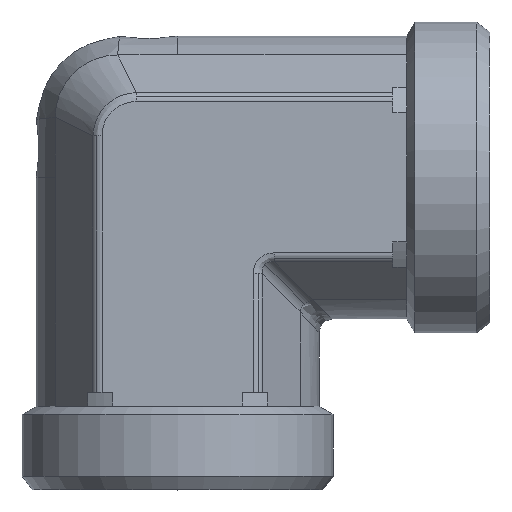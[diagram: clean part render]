
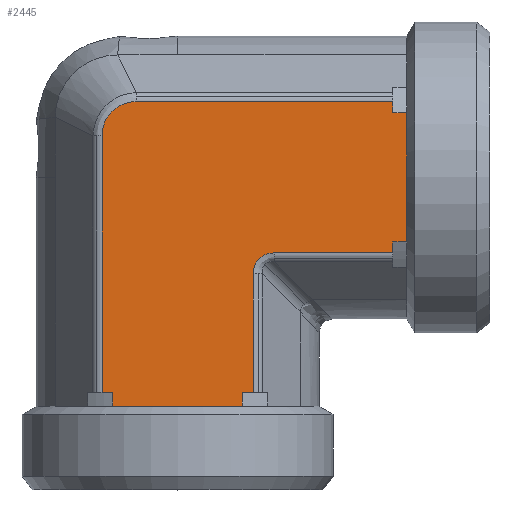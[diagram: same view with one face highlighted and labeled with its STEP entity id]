
A CAD part, top view. The second image highlights one B-rep face of the part: STEP entity #2445.
In plain terms, the highlighted planar face has unit normal (0, 0, 1) as drawn and (0, -1, 0) by its records, which use the part's own axes.
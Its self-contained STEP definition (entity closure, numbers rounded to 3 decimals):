
#361=CARTESIAN_POINT('',(9.429,-20.375,10.897));
#362=VERTEX_POINT('',#361);
#370=CARTESIAN_POINT('',(26.5,-20.375,10.897));
#371=VERTEX_POINT('',#370);
#372=CARTESIAN_POINT('',(9.429,-20.375,10.897));
#373=DIRECTION('',(1.0,0.0,0.0));
#374=VECTOR('',#373,17.071);
#375=LINE('',#372,#374);
#376=EDGE_CURVE('',#362,#371,#375,.T.);
#485=CARTESIAN_POINT('',(-15.397,-20.375,-5.976));
#486=VERTEX_POINT('',#485);
#494=CARTESIAN_POINT('',(-15.397,-20.375,31.));
#495=VERTEX_POINT('',#494);
#496=CARTESIAN_POINT('',(-15.397,-20.375,-5.976));
#497=DIRECTION('',(0.0,0.0,1.0));
#498=VECTOR('',#497,36.976);
#499=LINE('',#496,#498);
#500=EDGE_CURVE('',#486,#495,#499,.T.);
#692=CARTESIAN_POINT('',(28.5,-20.375,0.));
#693=VERTEX_POINT('',#692);
#1891=CARTESIAN_POINT('',(6.397,-20.375,31.));
#1892=VERTEX_POINT('',#1891);
#1893=CARTESIAN_POINT('',(4.831,-20.375,31.));
#1894=VERTEX_POINT('',#1893);
#1895=CARTESIAN_POINT('',(6.397,-20.375,31.));
#1896=DIRECTION('',(-1.0,0.0,0.0));
#1897=VECTOR('',#1896,1.566);
#1898=LINE('',#1895,#1897);
#1899=EDGE_CURVE('',#1892,#1894,#1898,.T.);
#1950=CARTESIAN_POINT('',(-13.831,-20.375,31.));
#1951=VERTEX_POINT('',#1950);
#1952=CARTESIAN_POINT('',(-13.831,-20.375,31.));
#1953=DIRECTION('',(-1.0,0.0,0.0));
#1954=VECTOR('',#1953,1.566);
#1955=LINE('',#1952,#1954);
#1956=EDGE_CURVE('',#1951,#495,#1955,.T.);
#2014=CARTESIAN_POINT('',(-13.831,-20.375,33.0));
#2015=VERTEX_POINT('',#2014);
#2016=CARTESIAN_POINT('',(-13.831,-20.375,33.0));
#2017=DIRECTION('',(0.0,0.0,-1.0));
#2018=VECTOR('',#2017,2.);
#2019=LINE('',#2016,#2018);
#2020=EDGE_CURVE('',#2015,#1951,#2019,.T.);
#2037=CARTESIAN_POINT('',(4.831,-20.375,33.0));
#2038=VERTEX_POINT('',#2037);
#2039=CARTESIAN_POINT('',(4.831,-20.375,31.));
#2040=DIRECTION('',(0.0,0.0,1.0));
#2041=VECTOR('',#2040,2.);
#2042=LINE('',#2039,#2041);
#2043=EDGE_CURVE('',#1894,#2038,#2042,.T.);
#2319=CARTESIAN_POINT('',(-4.5,-20.375,33.0));
#2320=VERTEX_POINT('',#2319);
#2321=CARTESIAN_POINT('',(-4.5,-20.375,33.0));
#2322=DIRECTION('',(-1.0,0.0,0.0));
#2323=VECTOR('',#2322,9.331);
#2324=LINE('',#2321,#2323);
#2325=EDGE_CURVE('',#2320,#2015,#2324,.T.);
#2343=CARTESIAN_POINT('',(-4.5,-20.375,-3.175));
#2344=DIRECTION('',(0.0,-1.0,0.0));
#2345=DIRECTION('',(0.0,0.0,-1.0));
#2346=AXIS2_PLACEMENT_3D('',#2343,#2344,#2345);
#2347=PLANE('',#2346);
#2348=ORIENTED_EDGE('',*,*,#2020,.T.);
#2349=ORIENTED_EDGE('',*,*,#1956,.T.);
#2350=ORIENTED_EDGE('',*,*,#500,.F.);
#2351=CARTESIAN_POINT('',(-10.476,-20.375,-10.897));
#2352=VERTEX_POINT('',#2351);
#2353=CARTESIAN_POINT('',(-15.397,-20.375,-5.976));
#2354=CARTESIAN_POINT('',(-15.397,-20.375,-6.296));
#2355=CARTESIAN_POINT('',(-15.365,-20.375,-6.619));
#2356=CARTESIAN_POINT('',(-15.2,-20.375,-7.443));
#2357=CARTESIAN_POINT('',(-15.019,-20.375,-7.929));
#2358=CARTESIAN_POINT('',(-14.359,-20.375,-9.1));
#2359=CARTESIAN_POINT('',(-13.773,-20.375,-9.713));
#2360=CARTESIAN_POINT('',(-12.293,-20.375,-10.637));
#2361=CARTESIAN_POINT('',(-11.385,-20.375,-10.897));
#2362=CARTESIAN_POINT('',(-10.476,-20.375,-10.897));
#2363=B_SPLINE_CURVE_WITH_KNOTS('',3,(#2353,#2354,#2355,#2356,#2357,#2358,#2359,#2360,#2361,#2362),.UNSPECIFIED.,.F.,.U.,(4,2,2,2,4),(-7.686,-6.725,-5.188,-2.729,0.0),.UNSPECIFIED.);
#2364=EDGE_CURVE('',#2352,#486,#2363,.F.);
#2365=ORIENTED_EDGE('',*,*,#2364,.F.);
#2366=CARTESIAN_POINT('',(26.5,-20.375,-10.897));
#2367=VERTEX_POINT('',#2366);
#2368=CARTESIAN_POINT('',(26.5,-20.375,-10.897));
#2369=DIRECTION('',(-1.0,0.0,0.0));
#2370=VECTOR('',#2369,36.976);
#2371=LINE('',#2368,#2370);
#2372=EDGE_CURVE('',#2367,#2352,#2371,.T.);
#2373=ORIENTED_EDGE('',*,*,#2372,.F.);
#2374=CARTESIAN_POINT('',(26.5,-20.375,-9.331));
#2375=VERTEX_POINT('',#2374);
#2376=CARTESIAN_POINT('',(26.5,-20.375,-10.897));
#2377=DIRECTION('',(0.0,0.0,1.0));
#2378=VECTOR('',#2377,1.566);
#2379=LINE('',#2376,#2378);
#2380=EDGE_CURVE('',#2367,#2375,#2379,.T.);
#2381=ORIENTED_EDGE('',*,*,#2380,.T.);
#2382=CARTESIAN_POINT('',(28.5,-20.375,-9.331));
#2383=VERTEX_POINT('',#2382);
#2384=CARTESIAN_POINT('',(26.5,-20.375,-9.331));
#2385=DIRECTION('',(1.0,0.0,0.0));
#2386=VECTOR('',#2385,2.0);
#2387=LINE('',#2384,#2386);
#2388=EDGE_CURVE('',#2375,#2383,#2387,.T.);
#2389=ORIENTED_EDGE('',*,*,#2388,.T.);
#2390=CARTESIAN_POINT('',(28.5,-20.375,-9.331));
#2391=DIRECTION('',(0.0,0.0,1.0));
#2392=VECTOR('',#2391,9.331);
#2393=LINE('',#2390,#2392);
#2394=EDGE_CURVE('',#2383,#693,#2393,.T.);
#2395=ORIENTED_EDGE('',*,*,#2394,.T.);
#2396=CARTESIAN_POINT('',(28.5,-20.375,9.331));
#2397=VERTEX_POINT('',#2396);
#2398=CARTESIAN_POINT('',(28.5,-20.375,0.));
#2399=DIRECTION('',(0.0,0.0,1.0));
#2400=VECTOR('',#2399,9.331);
#2401=LINE('',#2398,#2400);
#2402=EDGE_CURVE('',#693,#2397,#2401,.T.);
#2403=ORIENTED_EDGE('',*,*,#2402,.T.);
#2404=CARTESIAN_POINT('',(26.5,-20.375,9.331));
#2405=VERTEX_POINT('',#2404);
#2406=CARTESIAN_POINT('',(28.5,-20.375,9.331));
#2407=DIRECTION('',(-1.0,0.0,0.0));
#2408=VECTOR('',#2407,2.);
#2409=LINE('',#2406,#2408);
#2410=EDGE_CURVE('',#2397,#2405,#2409,.T.);
#2411=ORIENTED_EDGE('',*,*,#2410,.T.);
#2412=CARTESIAN_POINT('',(26.5,-20.375,9.331));
#2413=DIRECTION('',(0.0,0.0,1.0));
#2414=VECTOR('',#2413,1.566);
#2415=LINE('',#2412,#2414);
#2416=EDGE_CURVE('',#2405,#371,#2415,.T.);
#2417=ORIENTED_EDGE('',*,*,#2416,.T.);
#2418=ORIENTED_EDGE('',*,*,#376,.F.);
#2419=CARTESIAN_POINT('',(6.397,-20.375,13.929));
#2420=VERTEX_POINT('',#2419);
#2421=CARTESIAN_POINT('',(10.439,-20.375,14.939));
#2422=DIRECTION('',(0.,-1.,0.));
#2423=DIRECTION('',(-0.707,0.,-0.707));
#2424=AXIS2_PLACEMENT_3D('',#2421,#2422,#2423);
#2425=ELLIPSE('',#2424,4.518,3.5);
#2426=EDGE_CURVE('',#2420,#362,#2425,.T.);
#2427=ORIENTED_EDGE('',*,*,#2426,.F.);
#2428=CARTESIAN_POINT('',(6.397,-20.375,31.));
#2429=DIRECTION('',(0.0,0.0,-1.0));
#2430=VECTOR('',#2429,17.071);
#2431=LINE('',#2428,#2430);
#2432=EDGE_CURVE('',#1892,#2420,#2431,.T.);
#2433=ORIENTED_EDGE('',*,*,#2432,.F.);
#2434=ORIENTED_EDGE('',*,*,#1899,.T.);
#2435=ORIENTED_EDGE('',*,*,#2043,.T.);
#2436=CARTESIAN_POINT('',(4.831,-20.375,33.0));
#2437=DIRECTION('',(-1.0,0.0,0.0));
#2438=VECTOR('',#2437,9.331);
#2439=LINE('',#2436,#2438);
#2440=EDGE_CURVE('',#2038,#2320,#2439,.T.);
#2441=ORIENTED_EDGE('',*,*,#2440,.T.);
#2442=ORIENTED_EDGE('',*,*,#2325,.T.);
#2443=EDGE_LOOP('',(#2348,#2349,#2350,#2365,#2373,#2381,#2389,#2395,#2403,#2411,#2417,#2418,#2427,#2433,#2434,#2435,#2441,#2442));
#2444=FACE_OUTER_BOUND('',#2443,.T.);
#2445=ADVANCED_FACE('',(#2444),#2347,.T.);
